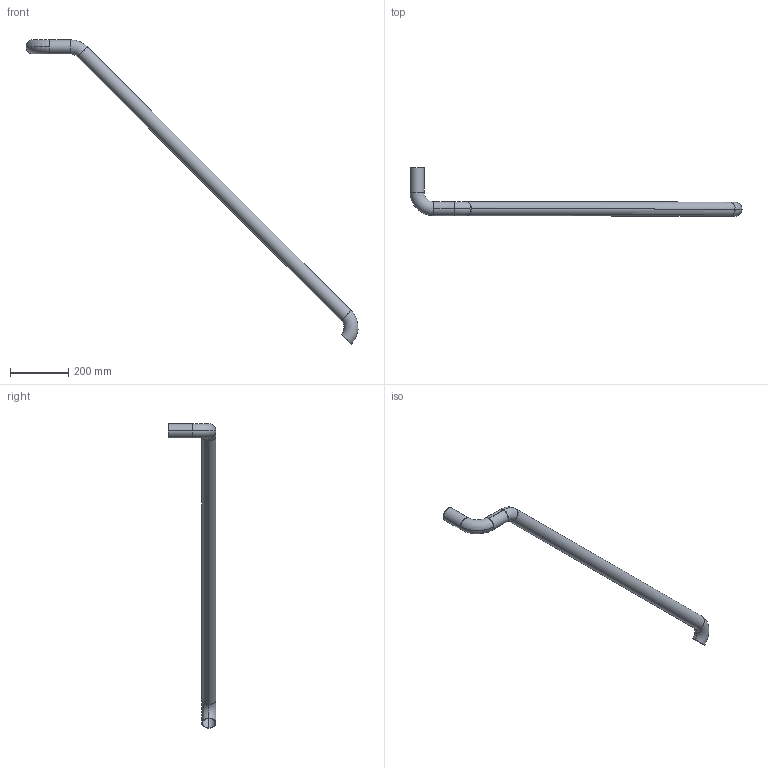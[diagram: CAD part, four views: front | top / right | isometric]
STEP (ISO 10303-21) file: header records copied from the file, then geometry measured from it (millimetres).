
FILE_DESCRIPTION (( 'STEP AP214' ), '1' );
FILE_NAME ('CCJ029-REP.307 - MAIN COURANTE ESCALIER SUPERIEUR TYPE 2.STEP', '2025-11-12T12:34:53', ( '' ), ( '' ), 'SwSTEP 2.0', 'SolidWorks 2021', '' );
FILE_SCHEMA (( 'AUTOMOTIVE_DESIGN' ));
Length unit declared in the file: millimetre
Products named in the file (1): CCJ029-REP.307 - MAIN COURANTE ESCALIER SUPERIEUR TYPE 2
Bounding box: 1136 x 164.15 x 1041.11 mm (x, y, z)
Volume: 595224.5 mm3; surface area: 476899.1 mm2
Topology: 1 solids, 1 shells, 30 faces, 64 edges, 36 vertices
Faces by surface type: cylinder 16, torus 12, plane 2
Entity records: 854 total; most frequent: DIRECTION 174, CARTESIAN_POINT 131, ORIENTED_EDGE 128, AXIS2_PLACEMENT_3D 79, EDGE_CURVE 64, CIRCLE 48, VERTEX_POINT 36, EDGE_LOOP 32
